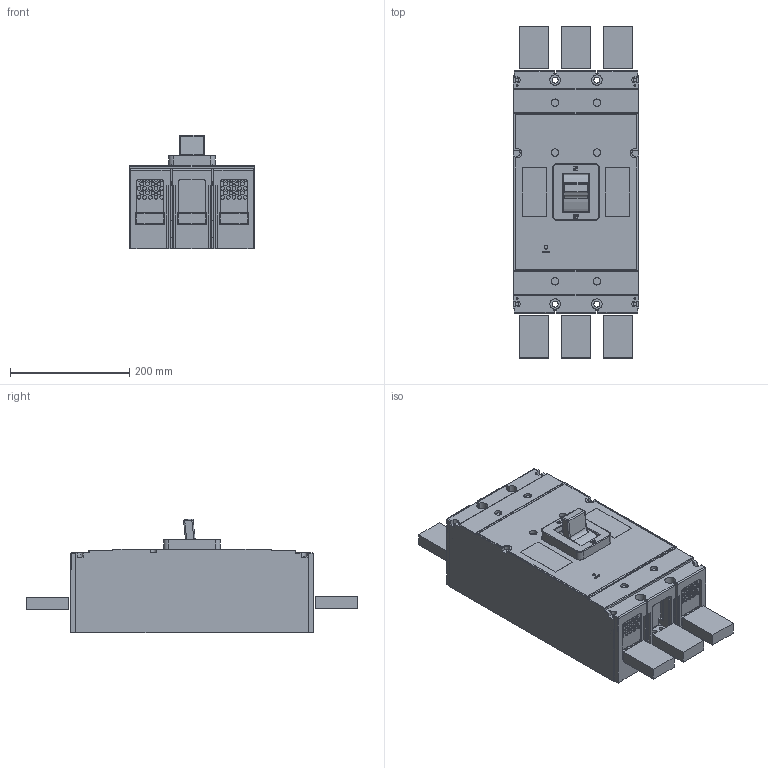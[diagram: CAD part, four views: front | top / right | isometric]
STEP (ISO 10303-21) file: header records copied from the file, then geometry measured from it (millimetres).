
FILE_DESCRIPTION((''),'2;1');
FILE_NAME('CDM3-1250','2019-07-16T',('gang.sun'),(''),'PRO/ENGINEER BY PARAMETRIC TECHNOLOGY CORPORATION, 2015440','PRO/ENGINEER BY PARAMETRIC TECHNOLOGY CORPORATION, 2015440','');
FILE_SCHEMA(('CONFIG_CONTROL_DESIGN'));
Length unit declared in the file: millimetre
Products named in the file (1): CDM3-1250
Bounding box: 210 x 555.75 x 190.79 mm (x, y, z)
Volume: 11031852.3 mm3; surface area: 704585.6 mm2
Topology: 7 solids, 7 shells, 1572 faces, 4379 edges, 2854 vertices
Faces by surface type: plane 1064, cylinder 454, torus 26, sphere 12, bspline 10, cone 6
Entity records: 52437 total; most frequent: CARTESIAN_POINT 11361, ORIENTED_EDGE 8718, DIRECTION 8216, EDGE_CURVE 4359, VECTOR 3120, LINE 3120, VERTEX_POINT 2854, AXIS2_PLACEMENT_3D 2548
